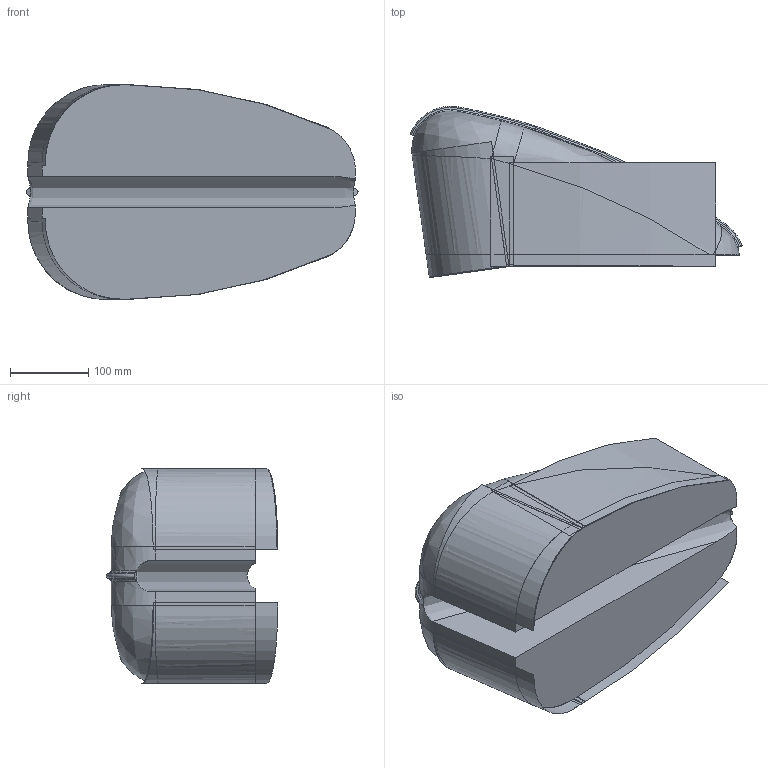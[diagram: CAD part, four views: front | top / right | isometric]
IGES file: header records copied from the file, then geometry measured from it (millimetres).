
Start section:  PTC IGES file: tank_02.igs
Global section: file name: tank_02.igs; native system: Pro/ENGINEER by Parametric Technology Corporation; preprocessor: 2005380; author: ARIBRU; organization: Unknown; date: 070105.103413; units: millimetre
Bounding box: 425.43 x 219.58 x 275 mm (x, y, z)
Surface area: 518052.7 mm2 (no closed solid volume)
Topology: 0 solids, 0 shells, 73 faces, 459 edges, 514 vertices
Faces by surface type: revolution 52, bspline 21
